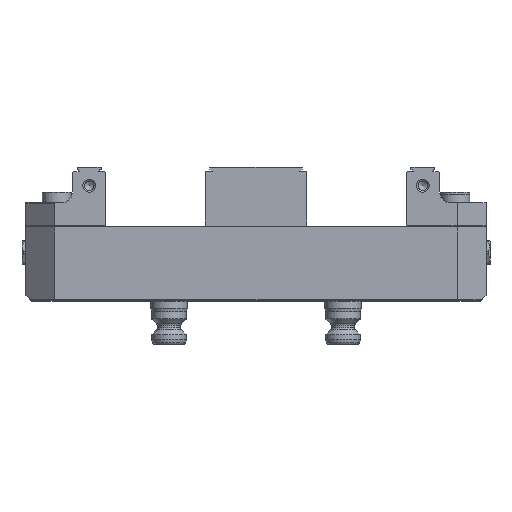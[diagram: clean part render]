
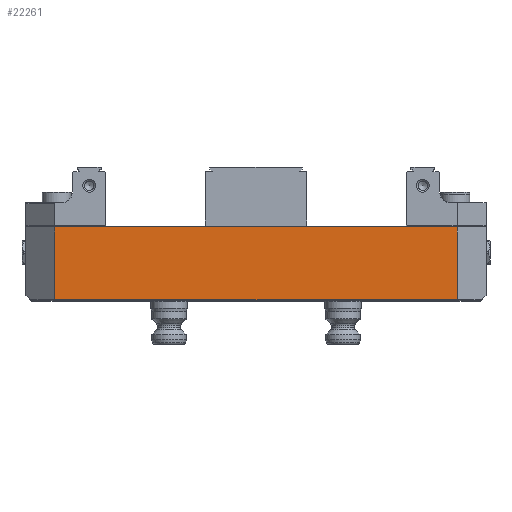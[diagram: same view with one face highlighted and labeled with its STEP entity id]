
A CAD part, top view. The second image highlights one B-rep face of the part: STEP entity #22261.
In plain terms, the highlighted planar face has unit normal (0, 0, 1).
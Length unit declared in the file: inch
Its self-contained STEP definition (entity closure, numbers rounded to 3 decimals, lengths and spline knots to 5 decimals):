
#285 = VECTOR ( 'NONE', #23326, 39.37008 ) ;
#1121 = LINE ( 'NONE', #3068, #285 ) ;
#1707 = EDGE_CURVE ( 'NONE', #4741, #18229, #1121, .T. ) ;
#1749 = DIRECTION ( 'NONE',  ( -1., 0., 0. ) ) ;
#2270 = ORIENTED_EDGE ( 'NONE', *, *, #11288, .T. ) ;
#2818 = DIRECTION ( 'NONE',  ( 0., 0., -1. ) ) ;
#3068 = CARTESIAN_POINT ( 'NONE',  ( 4.375, 1.675, 2.475 ) ) ;
#4532 = PLANE ( 'NONE',  #6132 ) ;
#4664 = FACE_OUTER_BOUND ( 'NONE', #15507, .T. ) ;
#4721 = LINE ( 'NONE', #16031, #19166 ) ;
#4741 = VERTEX_POINT ( 'NONE', #8683 ) ;
#5168 = CARTESIAN_POINT ( 'NONE',  ( -5., 1.63, 2.475 ) ) ;
#5341 = ORIENTED_EDGE ( 'NONE', *, *, #22087, .T. ) ;
#5759 = VECTOR ( 'NONE', #15581, 39.37008 ) ;
#6132 = AXIS2_PLACEMENT_3D ( 'NONE', #12091, #2818, #17685 ) ;
#8683 = CARTESIAN_POINT ( 'NONE',  ( 4.375, 0.045, 2.475 ) ) ;
#9695 = ORIENTED_EDGE ( 'NONE', *, *, #21716, .T. ) ;
#10765 = VECTOR ( 'NONE', #1749, 39.37008 ) ;
#11288 = EDGE_CURVE ( 'NONE', #22546, #4741, #4721, .T. ) ;
#12091 = CARTESIAN_POINT ( 'NONE',  ( -5., 1.675, 2.475 ) ) ;
#12147 = DIRECTION ( 'NONE',  ( 1., 0., 0. ) ) ;
#12768 = VERTEX_POINT ( 'NONE', #21015 ) ;
#13626 = CARTESIAN_POINT ( 'NONE',  ( -4.375, 0.045, 2.475 ) ) ;
#14100 = CARTESIAN_POINT ( 'NONE',  ( -4.375, 1.675, 2.475 ) ) ;
#15507 = EDGE_LOOP ( 'NONE', ( #23517, #5341, #9695, #2270 ) ) ;
#15581 = DIRECTION ( 'NONE',  ( 0., -1., 0. ) ) ;
#16031 = CARTESIAN_POINT ( 'NONE',  ( 4.375, 0.045, 2.475 ) ) ;
#17685 = DIRECTION ( 'NONE',  ( -1., 0., 0. ) ) ;
#18218 = LINE ( 'NONE', #5168, #10765 ) ;
#18229 = VERTEX_POINT ( 'NONE', #23207 ) ;
#19166 = VECTOR ( 'NONE', #12147, 39.37008 ) ;
#21015 = CARTESIAN_POINT ( 'NONE',  ( -4.375, 1.63, 2.475 ) ) ;
#21716 = EDGE_CURVE ( 'NONE', #12768, #22546, #23300, .T. ) ;
#22087 = EDGE_CURVE ( 'NONE', #18229, #12768, #18218, .T. ) ;
#22261 = ADVANCED_FACE ( 'NONE', ( #4664 ), #4532, .F. ) ;
#22546 = VERTEX_POINT ( 'NONE', #13626 ) ;
#23207 = CARTESIAN_POINT ( 'NONE',  ( 4.375, 1.63, 2.475 ) ) ;
#23300 = LINE ( 'NONE', #14100, #5759 ) ;
#23326 = DIRECTION ( 'NONE',  ( 0., 1., 0. ) ) ;
#23517 = ORIENTED_EDGE ( 'NONE', *, *, #1707, .T. ) ;
